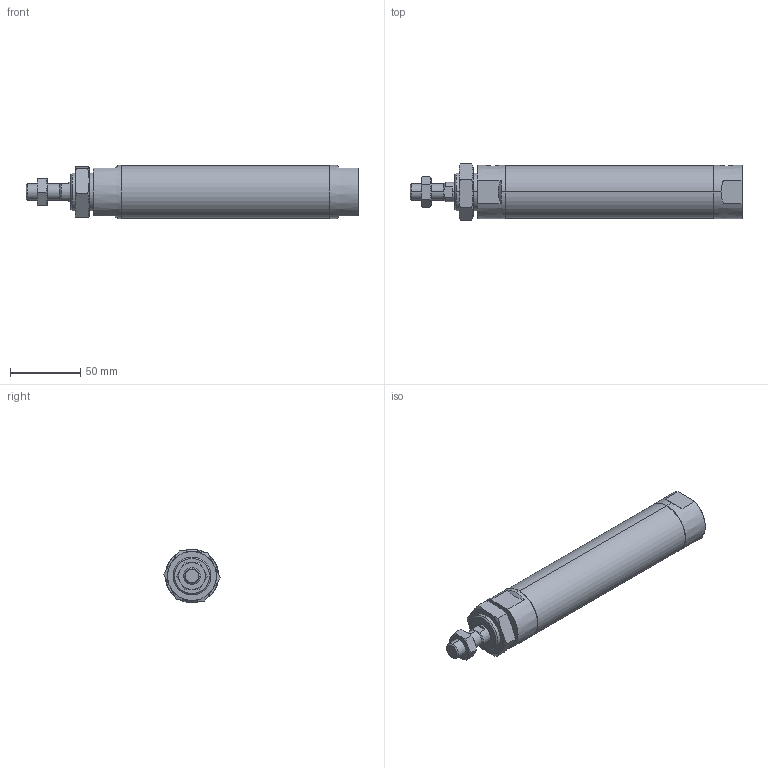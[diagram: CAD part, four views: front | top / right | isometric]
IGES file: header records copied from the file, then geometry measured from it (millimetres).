
Start section: SolidWorks IGES file using analytic representation for surfaces
Global section: file name: C:\Users\Toshiba\Desktop\JGND2-32-100-N.IGS; native system: SolidWorks 2014; preprocessor: SolidWorks 2014; author: Toshiba; date: 160804.105224; units: millimetre
Bounding box: 237 x 40.33 x 38 mm (x, y, z)
Surface area: 32528.4 mm2 (no closed solid volume)
Topology: 0 solids, 0 shells, 89 faces, 1572 edges, 1568 vertices
Faces by surface type: bspline 56, revolution 33
